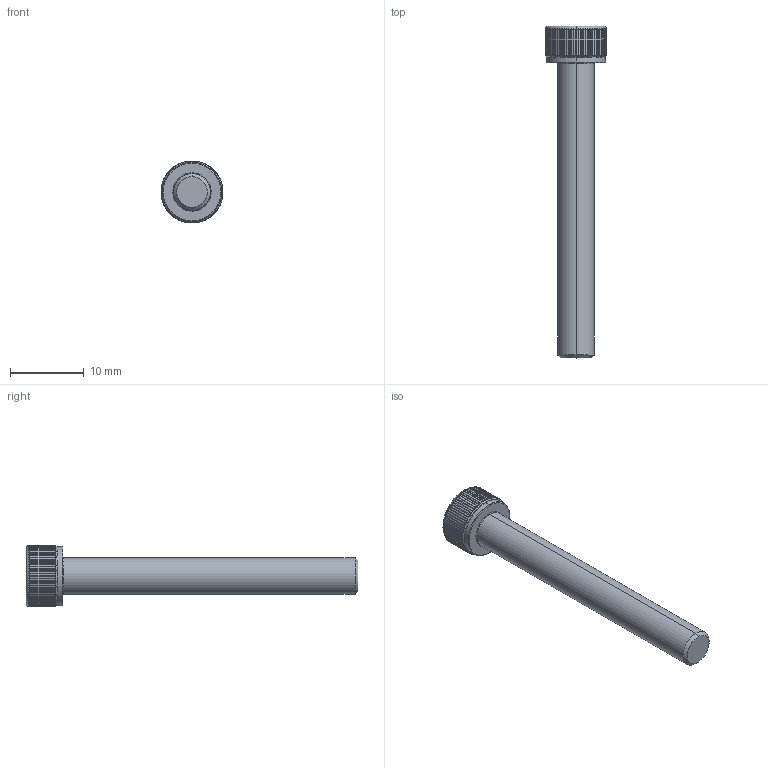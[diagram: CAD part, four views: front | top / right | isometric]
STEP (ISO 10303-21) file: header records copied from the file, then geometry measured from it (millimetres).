
FILE_DESCRIPTION (( 'STEP AP203' ), '1' );
FILE_NAME ('LGDT-304-M5x40.STEP', '2026-08-10T04:02:20', ( '' ), ( '' ), 'SwSTEP 2.0', 'SolidWorks 2020', '' );
FILE_SCHEMA (( 'CONFIG_CONTROL_DESIGN' ));
Length unit declared in the file: millimetre
Products named in the file (1): LGDT-304-M5x40
Bounding box: 8.4 x 45 x 8.4 mm (x, y, z)
Volume: 1013.4 mm3; surface area: 897 mm2
Topology: 1 solids, 1 shells, 204 faces, 576 edges, 376 vertices
Faces by surface type: cylinder 175, cone 11, plane 10, torus 8
Entity records: 8367 total; most frequent: CARTESIAN_POINT 3208, ORIENTED_EDGE 1152, DIRECTION 988, EDGE_CURVE 576, AXIS2_PLACEMENT_3D 398, VERTEX_POINT 376, EDGE_LOOP 206, FACE_OUTER_BOUND 204
